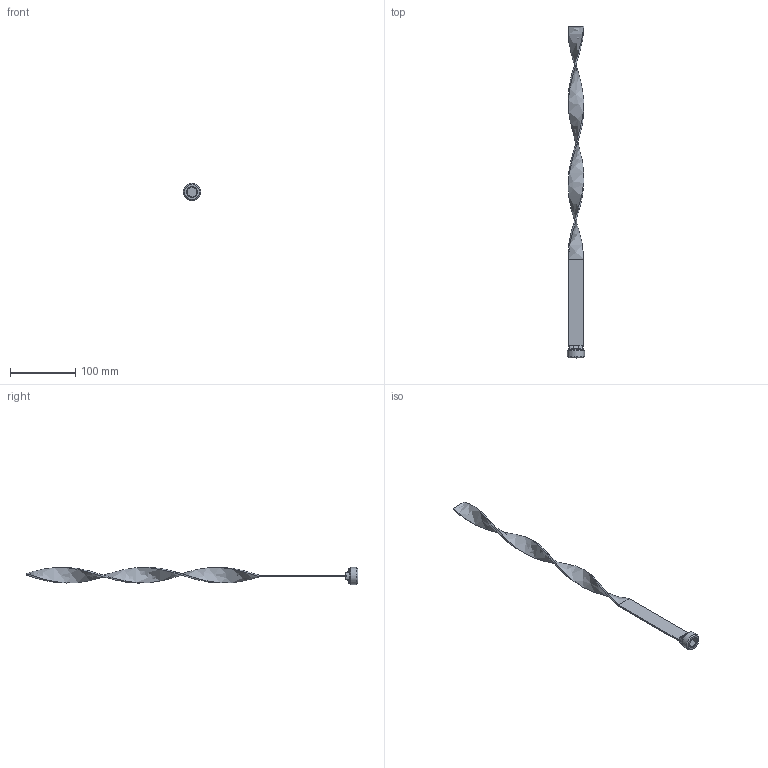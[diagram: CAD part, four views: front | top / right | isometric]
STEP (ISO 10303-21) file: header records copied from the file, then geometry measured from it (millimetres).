
FILE_DESCRIPTION(/* description */ (''),/* implementation_level */ '2;1');
FILE_NAME(/* name */ 'C:/Users/drich/Desktop/TB34X20BSP v1.step',/* time_stamp */ '2020-01-14T09:25:51-06:00',/* author */ (''),/* organization */ (''),/* preprocessor_version */ 'ST-DEVELOPER v18',/* originating_system */ 'Autodesk Translation Framework v8.12.0.6',/* authorisation */ '');
FILE_SCHEMA (('AUTOMOTIVE_DESIGN { 1 0 10303 214 3 1 1 }'));
Length unit declared in the file: inch
Products named in the file (1): TB34X20BSP
Bounding box: 26.3 x 508 x 26.33 mm (x, y, z)
Volume: 33493.3 mm3; surface area: 28623.5 mm2
Topology: 2 solids, 2 shells, 49 faces, 117 edges, 74 vertices
Faces by surface type: plane 24, cylinder 8, bspline 8, torus 6, cone 3
Full cylindrical faces by diameter (mm): 22.504 x1, 26.299 x1
Entity records: 2207 total; most frequent: CARTESIAN_POINT 1086, ORIENTED_EDGE 234, DIRECTION 207, EDGE_CURVE 117, AXIS2_PLACEMENT_3D 78, VERTEX_POINT 74, EDGE_LOOP 51, LINE 51
